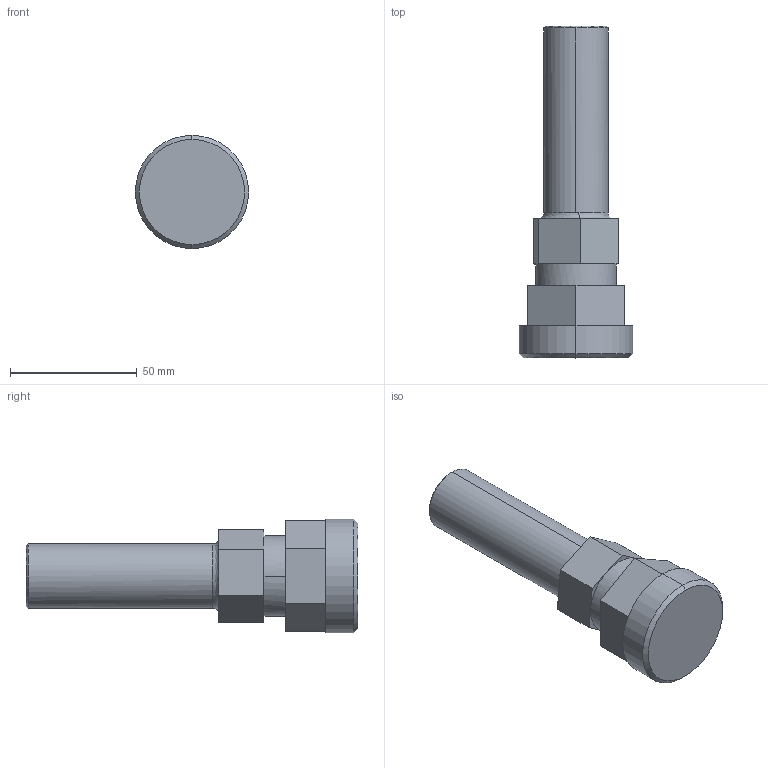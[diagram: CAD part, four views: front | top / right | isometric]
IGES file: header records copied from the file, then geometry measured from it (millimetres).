
Start section: SolidWorks IGES file using analytic representation for surfaces
Global section: file name: S:\Product Visuals\REVISED-60L-TOP-MOUNT-FITTINGS\IGS\top-straight-outlet-only\tubeout\16-tube-out-with-top-mount-adapter.IGS; native system: SolidWorks 2012; preprocessor: SolidWorks 2012; author: rachel.dressel; date: 121127.140157; units: inch
Bounding box: 44.7 x 131.09 x 44.7 mm (x, y, z)
Volume: 100687.4 mm3; surface area: 15819.6 mm2
Topology: 1 solids, 1 shells, 35 faces, 80 edges, 50 vertices
Faces by surface type: plane 23, revolution 10, bspline 2
